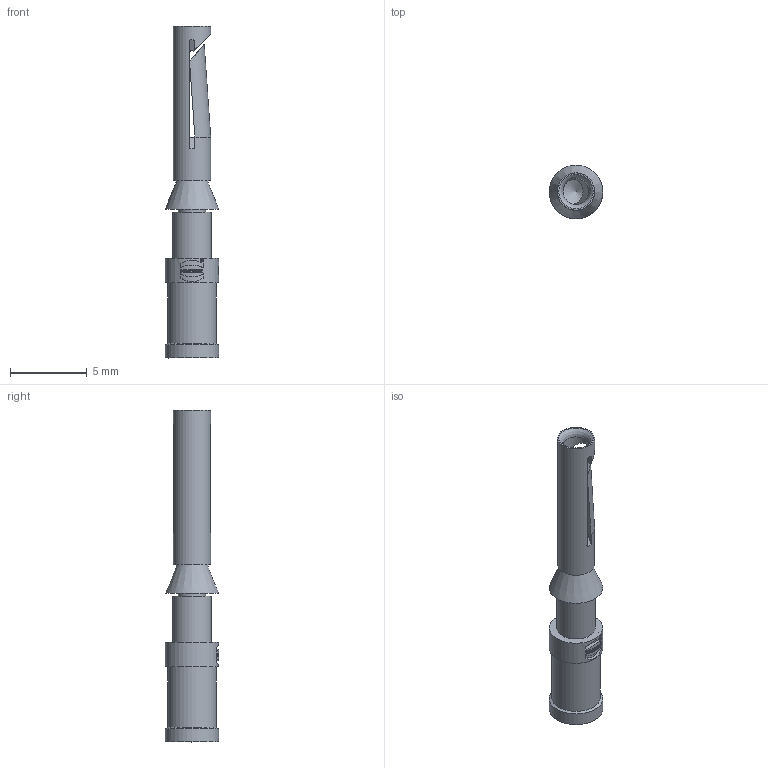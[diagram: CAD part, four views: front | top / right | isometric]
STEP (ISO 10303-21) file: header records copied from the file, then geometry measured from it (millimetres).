
FILE_DESCRIPTION(/* description */ (''),/* implementation_level */ '2;1');
FILE_NAME(/* name */ '100125559ugm000_e.stp',/* time_stamp */ '2024-03-21T13:56:24+01:00',/* author */ (''),/* organization */ (''),/* preprocessor_version */ 'ST-DEVELOPER v19.3',/* originating_system */ 'SIEMENS PLM Software NX2212.6000',/* authorisation */ '');
FILE_SCHEMA (('AUTOMOTIVE_DESIGN { 1 0 10303 214 3 1 1 1 }'));
Length unit declared in the file: millimetre
Products named in the file (1): 100125559ugm000_e
Bounding box: 3.5 x 3.5 x 21.65 mm (x, y, z)
Volume: 79 mm3; surface area: 313.8 mm2
Topology: 1 solids, 1 shells, 140 faces, 355 edges, 233 vertices
Faces by surface type: plane 92, cylinder 40, cone 5, extrusion 2, torus 1
Full cylindrical faces by diameter (mm): 0.159 x1, 0.188 x1, 0.8 x1, 1.7 x1, 1.77 x1, 2.25 x1, 2.43 x1, 2.54 x1, 3.17 x1, 3.5 x2
Entity records: 5918 total; most frequent: CARTESIAN_POINT 1630, DIRECTION 691, ORIENTED_EDGE 646, EDGE_CURVE 323, AXIS2_PLACEMENT_3D 265, VERTEX_POINT 223, EDGE_LOOP 180, VECTOR 161
